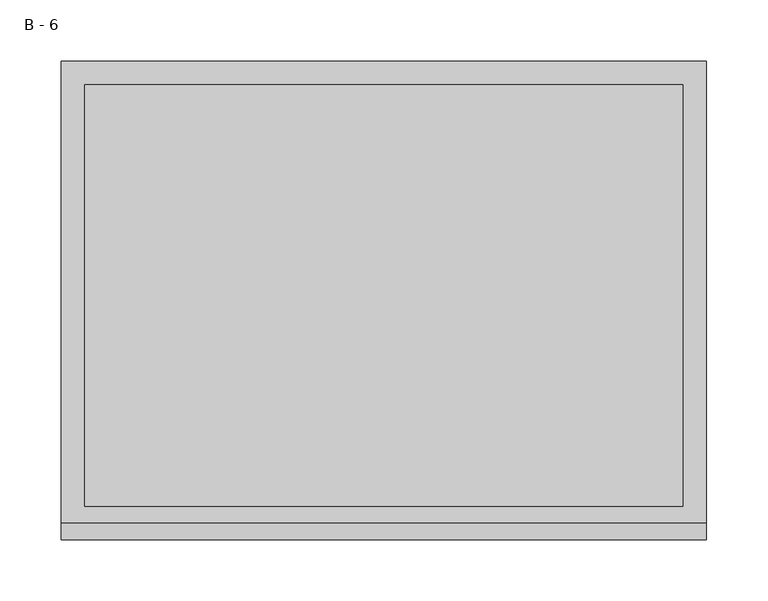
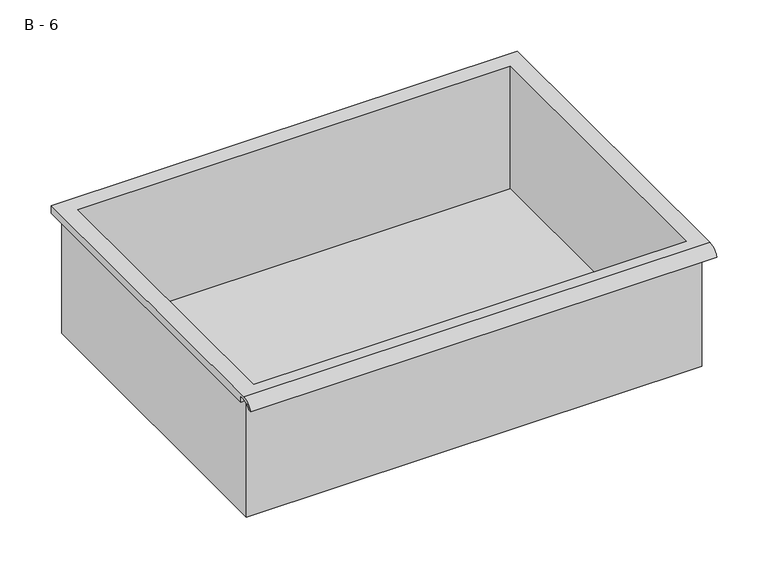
"""IFC4 building model written with IfcOpenShell, lengths in millimetres: furniture geometry, HermanMiller_CoStruc_CO207_Drawer : B - 6."""

from ifc_helpers import new_model, si_unit, frame, origin, place, context, project, spatial, polyline, circle_curve, source, transform, mapped, element, save
from ifc_brep_helpers import plane_surface, cylinder_surface, revolved_surface, advanced_brep


def b_6_7aba6d1f(model_context):
    return source(origin(), model_context, "Body", "AdvancedBrep", [
        advanced_brep(
        [(-257.1076517, -176.2125, 420.7002), (257.2423483, -176.2125, 420.7002), (257.2423483, -176.2125, 560.4002), (263.5923483, -176.2125, 560.4002), (263.5923483, -176.2125, 566.7073341), (-263.4576517, -176.2125, 566.7073341), (-263.4576517, -176.2125, 560.4002), (-257.1076517, -176.2125, 560.4002), (257.2423483, 185.7375, 420.7002), (-257.1076517, 185.7375, 420.7002), (-257.1076517, 185.7375, 560.4002), (257.2423483, 185.7375, 560.4002), (263.5923483, -181.6070544, 569.9252), (263.5923483, 195.2625, 569.9252), (-263.4576517, 195.2625, 569.9252), (-263.4576517, -181.6070544, 569.9252), (244.5423483, -168.275, 569.9252), (-244.4076517, -168.275, 569.9252), (-244.4076517, 176.2125, 569.9252), (244.5423483, 176.2125, 569.9252), (263.5923483, -195.2625, 560.4002), (263.5923483, -191.8280601, 560.4002), (263.5923483, -180.4714815, 566.7073341), (263.5923483, 195.2625, 560.4002), (-263.4576517, 195.2625, 560.4002), (-263.4576517, -180.4714815, 566.7073341), (-263.4576517, -191.8280601, 560.4002), (-263.4576517, -195.2625, 560.4002), (-244.4076517, -168.275, 423.7263719), (244.5423483, -168.275, 423.7263719), (244.5423483, 176.2125, 423.7263719), (-244.4076517, 176.2125, 423.7263719)],
        [
            (0, 1),
            (1, 2),
            (2, 3),
            (3, 4),
            (4, 5),
            (5, 6),
            (6, 7),
            (7, 0),
            (8, 9),
            (9, 10),
            (10, 11),
            (11, 8),
            (0, 9),
            (8, 1),
            (11, 2),
            (12, 13),
            (13, 14),
            (14, 15),
            (15, 12),
            (16, 17),
            (17, 18),
            (18, 19),
            (19, 16),
            (7, 10),
            (12, 20, circle_curve(frame((263.5923483, -181.6070544, 555.3741859), z_axis=(1.0, 0.0, 0.0), x_axis=(0.0, 1.0, 0.0)), 14.5510141)),
            (20, 21),
            (21, 22, circle_curve(frame((263.5923483, -181.6070544, 555.3741859), z_axis=(-1.0, 0.0, 0.0), x_axis=(0.0, 1.0, 0.0)), 11.3898979)),
            (22, 4),
            (3, 23),
            (23, 13),
            (14, 24),
            (24, 6),
            (5, 25),
            (25, 26, circle_curve(frame((-263.4576517, -181.6070544, 555.3741859), z_axis=(1.0, 0.0, 0.0), x_axis=(0.0, 1.0, 0.0)), 11.3898979)),
            (26, 27),
            (27, 15, circle_curve(frame((-263.4576517, -181.6070544, 555.3741859), z_axis=(-1.0, 0.0, 0.0), x_axis=(0.0, 1.0, 0.0)), 14.5510141)),
            (27, 20),
            (26, 21),
            (25, 22),
            (24, 23),
            (28, 29),
            (29, 30),
            (30, 31),
            (31, 28),
            (28, 17),
            (16, 29),
            (19, 30),
            (18, 31),
        ],
        [
            plane_surface(frame((257.2423483, -176.2125, 420.7002), z_axis=(0.0, -1.0, 0.0), x_axis=(1.0, 0.0, 0.0))),
            plane_surface(frame((257.2423483, 185.7375, 420.7002), z_axis=(0.0, 1.0, 0.0), x_axis=(-1.0, 0.0, 0.0))),
            plane_surface(frame((-257.1076517, -176.2125, 420.7002), z_axis=(0.0, 0.0, -1.0), x_axis=(0.0, 1.0, 0.0))),
            plane_surface(frame((257.2423483, -176.2125, 420.7002), z_axis=(1.0, 0.0, 0.0), x_axis=(0.0, 1.0, 0.0))),
            plane_surface(frame((257.2423483, -176.2125, 569.9252), z_axis=(0.0, 0.0, 1.0), x_axis=(0.0, 1.0, 0.0))),
            plane_surface(frame((-257.1076517, -176.2125, 569.9252), z_axis=(-1.0, 0.0, 0.0), x_axis=(0.0, 1.0, 0.0))),
            plane_surface(frame((263.5923483, 195.2625, 569.9252), z_axis=(1.0, 0.0, 0.0), x_axis=(0.0, -1.0, 0.0))),
            plane_surface(frame((-263.4576517, 195.2625, 569.9252), z_axis=(-1.0, 0.0, 0.0), x_axis=(0.0, 1.0, 0.0))),
            cylinder_surface(frame((-263.4576517, -181.6070544, 555.3741859), z_axis=(1.0, 0.0, 0.0), x_axis=(0.0, 1.0, 0.0)), 14.5510141),
            plane_surface(frame((263.5923483, -195.2625, 560.4002), z_axis=(0.0, -7.35035135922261e-12, -1.0), x_axis=(-1.0, 0.0, 0.0))),
            revolved_surface(polyline([(-263.4576517, -170.21715650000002, 555.3741859), (263.59234829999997, -170.21715650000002, 555.3741859)]), (-263.4576517, -181.6070544, 555.3741859), (-1.0, 0.0, 0.0)),
            plane_surface(frame((263.5923483, -180.4714815, 566.7073341), z_axis=(0.0, -1.813155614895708e-11, -1.0), x_axis=(-1.0, 0.0, 0.0))),
            plane_surface(frame((263.5923483, -176.2125, 560.4002), z_axis=(0.0, 0.0, -1.0), x_axis=(-1.0, 0.0, 0.0))),
            plane_surface(frame((263.5923483, 195.2625, 560.4002), z_axis=(0.0, 1.0, 0.0), x_axis=(-1.0, 0.0, 0.0))),
            plane_surface(frame((244.5423483, -168.275, 423.7263719), z_axis=(0.0, 0.0, 1.0), x_axis=(-1.0, 0.0, 0.0))),
            plane_surface(frame((-244.4076517, -168.275, 569.9252), z_axis=(0.0, 1.0, 0.0), x_axis=(0.0, 0.0, -1.0))),
            plane_surface(frame((244.5423483, -168.275, 569.9252), z_axis=(-1.0, 0.0, 0.0), x_axis=(0.0, 0.0, -1.0))),
            plane_surface(frame((244.5423483, 176.2125, 569.9252), z_axis=(0.0, -1.0, 0.0), x_axis=(0.0, 0.0, -1.0))),
            plane_surface(frame((-244.4076517, 176.2125, 569.9252), z_axis=(1.0, 0.0, 0.0), x_axis=(0.0, 0.0, -1.0))),
        ],
        [
            (0, [[1, 2, 3, 4, 5, 6, 7, 8]]),
            (1, [[9, 10, 11, 12]]),
            (2, [[-1, 13, -9, 14]]),
            (3, [[-14, -12, 15, -2]]),
            (4, [[16, 17, 18, 19], [20, 21, 22, 23]]),
            (5, [[-13, -8, 24, -10]]),
            (6, [[-16, 25, 26, 27, 28, -4, 29, 30]]),
            (7, [[31, 32, -6, 33, 34, 35, 36, -18]]),
            (8, [[-25, -19, -36, 37]]),
            (9, [[-26, -37, -35, 38]]),
            (10, [[-27, -38, -34, 39]]),
            (11, [[-28, -39, -33, -5]]),
            (12, [[-29, -3, -15, -11, -24, -7, -32, 40]]),
            (13, [[-30, -40, -31, -17]]),
            (14, [[41, 42, 43, 44]]),
            (15, [[-41, 45, -20, 46]]),
            (16, [[-42, -46, -23, 47]]),
            (17, [[-43, -47, -22, 48]]),
            (18, [[-44, -48, -21, -45]]),
        ],
    ),
    ])


if __name__ == "__main__":
    model = new_model("IFC4")
    model_context = context("Model", 3, world=origin())
    ifc_project = project(units=[si_unit("LENGTHUNIT", "METRE", prefix="MILLI")], contexts=[model_context])
    site = spatial("IfcSite", under=ifc_project)
    building = spatial("IfcBuilding", under=site)
    placement = place(None, origin())
    b_6_shape = b_6_7aba6d1f(model_context)
    element("IfcFurniture", 1, ObjectType="HermanMiller_CoStruc_CO207_Drawer : B - 6", at=placement, inside=building, context=model_context, shape_type="MappedRepresentation", body=[
        mapped(b_6_shape, transform((0.0, 0.0, 0.0), x_axis=(1.0, 0.0, 0.0), y_axis=(0.0, 1.0, 0.0), z_axis=(0.0, 0.0, 1.0))),
    ])
    save(model, "model.ifc")
